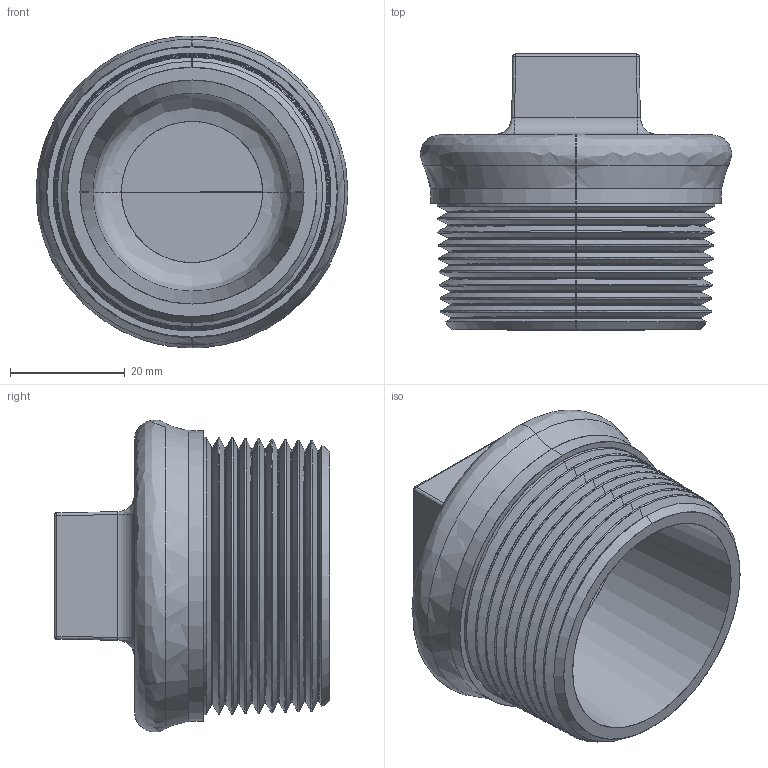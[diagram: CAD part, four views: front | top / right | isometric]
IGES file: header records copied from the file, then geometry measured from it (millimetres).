
Start section: SolidWorks IGES file using analytic representation for surfaces
Global section: file name: C:\Users\Joel Rosa\Desktop\Tubulação\12-03-OK\12-03-009.IGS; native system: SolidWorks 2011; preprocessor: SolidWorks 2011; author: Joel Rosa; date: 121203.234747; units: millimetre
Bounding box: 54.26 x 48 x 54.28 mm (x, y, z)
Surface area: 15680.1 mm2 (no closed solid volume)
Topology: 0 solids, 0 shells, 233 faces, 2019 edges, 2017 vertices
Faces by surface type: bspline 171, revolution 62
